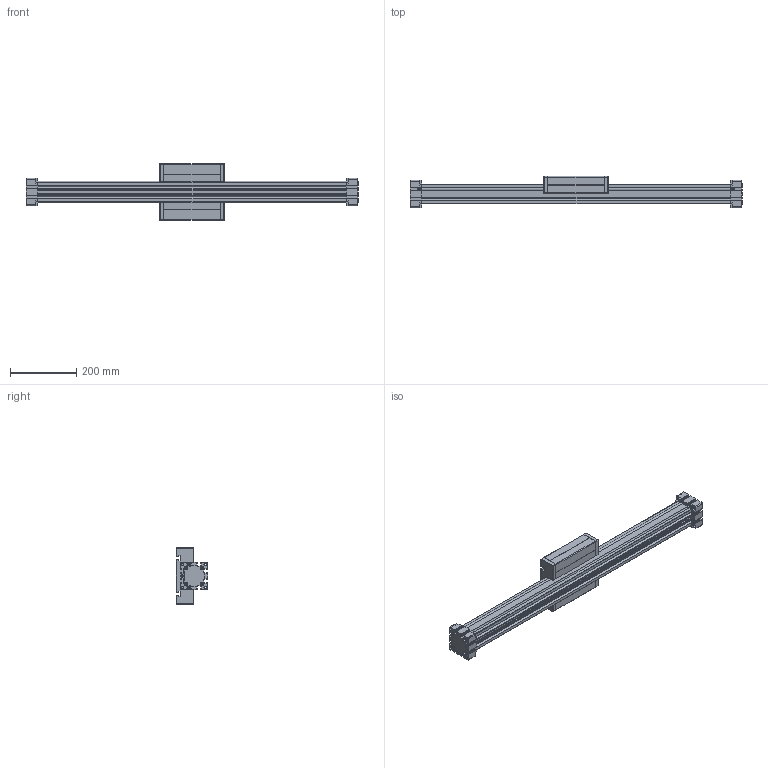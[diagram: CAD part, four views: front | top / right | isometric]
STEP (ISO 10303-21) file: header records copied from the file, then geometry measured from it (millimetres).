
FILE_DESCRIPTION (( 'STEP AP214' ), '1' );
FILE_NAME ('ELR-60-S.STEP', '2016-01-15T07:07:26', ( 'admin' ), ( '' ), 'SwSTEP 2.0', 'SolidWorks 2015', '' );
FILE_SCHEMA (( 'AUTOMOTIVE_DESIGN' ));
Length unit declared in the file: millimetre
Products named in the file (5): Kopie von Bahr-ELR-ELR-60S  0  0 0  0 0 0 0  1265_EL60S Carriage^ELR60S S0_A; Kopie von Bahr-ELR-ELR-60S  0  0 0  0 0 0 0  1265_EL60S Extrusion^ELR60S S0_0; Kopie von Bahr-ELR-ELR-60S  0  0 0  0 0 0 0  1265_ELR End Block 60S (B)^ELR60S S0_ELR-60S End Block 0-0; Kopie von Bahr-ELR-ELR-60S  0  0 0  0 0 0 0  1265_ELR End Block 60S (A)^ELR60S S0_ELR-60S End Block 0-0; ELR-60-S
Assembly tree (4 placements, depth 2):
  ELR-60-S
    Kopie von Bahr-ELR-ELR-60S  0  0 0  0 0 0 0  1265_ELR End Block 60S (A)^ELR60S S0_ELR-60S End Block 0-0
    Kopie von Bahr-ELR-ELR-60S  0  0 0  0 0 0 0  1265_ELR End Block 60S (B)^ELR60S S0_ELR-60S End Block 0-0
    Kopie von Bahr-ELR-ELR-60S  0  0 0  0 0 0 0  1265_EL60S Extrusion^ELR60S S0_0
    Kopie von Bahr-ELR-ELR-60S  0  0 0  0 0 0 0  1265_EL60S Carriage^ELR60S S0_A
Bounding box: 1002 x 94 x 170 mm (x, y, z)
Volume: 4656707.9 mm3; surface area: 533453.2 mm2
Topology: 16 solids, 16 shells, 997 faces, 2795 edges, 1846 vertices
Faces by surface type: plane 714, cylinder 243, cone 32, torus 8
Entity records: 32265 total; most frequent: CARTESIAN_POINT 5685, ORIENTED_EDGE 5590, DIRECTION 5365, EDGE_CURVE 2795, LINE 2217, VECTOR 2217, VERTEX_POINT 1846, AXIS2_PLACEMENT_3D 1574
